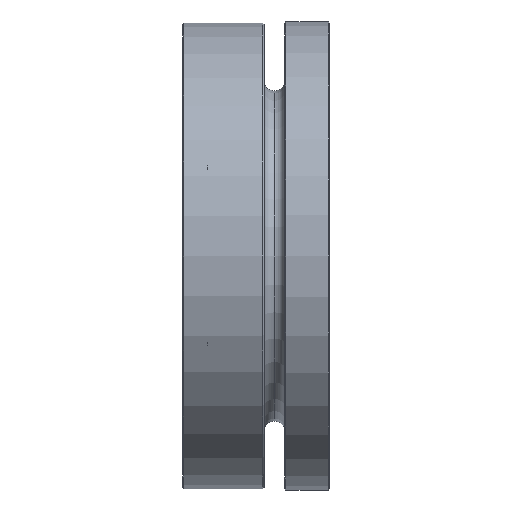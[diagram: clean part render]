
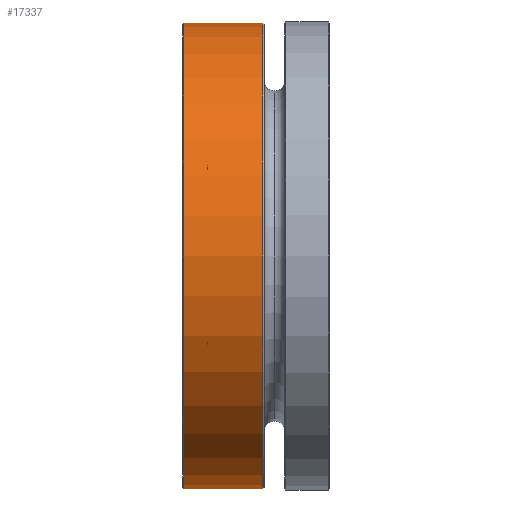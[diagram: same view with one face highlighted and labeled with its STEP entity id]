
A CAD part, left-side view. The second image highlights one B-rep face of the part: STEP entity #17337.
In plain terms, the highlighted cylindrical face has radius 55.75 mm (diameter 111.5 mm), a partial arc.
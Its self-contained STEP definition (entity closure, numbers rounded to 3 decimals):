
#2146 = EDGE_CURVE ( 'NONE', #17773, #17808, #17505, .T. ) ;
#2223 = EDGE_CURVE ( 'NONE', #17944, #18047, #11340, .T. ) ;
#3080 = CARTESIAN_POINT ( 'NONE',  ( 0., 34.75, 55.75 ) ) ;
#3102 = CARTESIAN_POINT ( 'NONE',  ( 0., 15.83, 55.75 ) ) ;
#3124 = CARTESIAN_POINT ( 'NONE',  ( 0., 34.75, -55.75 ) ) ;
#3185 = CARTESIAN_POINT ( 'NONE',  ( 0., 15.83, -55.75 ) ) ;
#5173 = CARTESIAN_POINT ( 'NONE',  ( 0., 15.83, 0. ) ) ;
#5174 = DIRECTION ( 'NONE',  ( 0., 1., 0. ) ) ;
#5175 = DIRECTION ( 'NONE',  ( 0., 0., 1. ) ) ;
#5218 = CARTESIAN_POINT ( 'NONE',  ( 0., 34.75, 0. ) ) ;
#5220 = DIRECTION ( 'NONE',  ( 0., -1., 0. ) ) ;
#5222 = DIRECTION ( 'NONE',  ( 0., 0., -1. ) ) ;
#5485 = DIRECTION ( 'NONE',  ( 0., -1., 0. ) ) ;
#5488 = CYLINDRICAL_SURFACE ( 'NONE', #18592, 55.75 ) ;
#5489 = FACE_OUTER_BOUND ( 'NONE', #6612, .T. ) ;
#5491 = CARTESIAN_POINT ( 'NONE',  ( 0., 0., 0. ) ) ;
#5494 = DIRECTION ( 'NONE',  ( 0., 0., -1. ) ) ;
#6612 = EDGE_LOOP ( 'NONE', ( #7197, #17980, #7224, #6979 ) ) ;
#6979 = ORIENTED_EDGE ( 'NONE', *, *, #17304, .T. ) ;
#7197 = ORIENTED_EDGE ( 'NONE', *, *, #2146, .F. ) ;
#7224 = ORIENTED_EDGE ( 'NONE', *, *, #2223, .T. ) ;
#11340 = LINE ( 'NONE', #11346, #16410 ) ;
#11346 = CARTESIAN_POINT ( 'NONE',  ( 0., 0., -55.75 ) ) ;
#11347 = DIRECTION ( 'NONE',  ( 0., -1., 0. ) ) ;
#16150 = VECTOR ( 'NONE', #17500, 1000. ) ;
#16410 = VECTOR ( 'NONE', #11347, 1000. ) ;
#17304 = EDGE_CURVE ( 'NONE', #18047, #17808, #18532, .T. ) ;
#17311 = EDGE_CURVE ( 'NONE', #17773, #17944, #18546, .T. ) ;
#17337 = ADVANCED_FACE ( 'NONE', ( #5489 ), #5488, .T. ) ;
#17500 = DIRECTION ( 'NONE',  ( 0., -1., 0. ) ) ;
#17505 = LINE ( 'NONE', #17518, #16150 ) ;
#17518 = CARTESIAN_POINT ( 'NONE',  ( 0., 0., 55.75 ) ) ;
#17773 = VERTEX_POINT ( 'NONE', #3080 ) ;
#17808 = VERTEX_POINT ( 'NONE', #3102 ) ;
#17944 = VERTEX_POINT ( 'NONE', #3124 ) ;
#17980 = ORIENTED_EDGE ( 'NONE', *, *, #17311, .T. ) ;
#18047 = VERTEX_POINT ( 'NONE', #3185 ) ;
#18532 = CIRCLE ( 'NONE', #18535, 55.75 ) ;
#18535 = AXIS2_PLACEMENT_3D ( 'NONE', #5173, #5174, #5175 ) ;
#18546 = CIRCLE ( 'NONE', #18549, 55.75 ) ;
#18549 = AXIS2_PLACEMENT_3D ( 'NONE', #5218, #5220, #5222 ) ;
#18592 = AXIS2_PLACEMENT_3D ( 'NONE', #5491, #5485, #5494 ) ;
